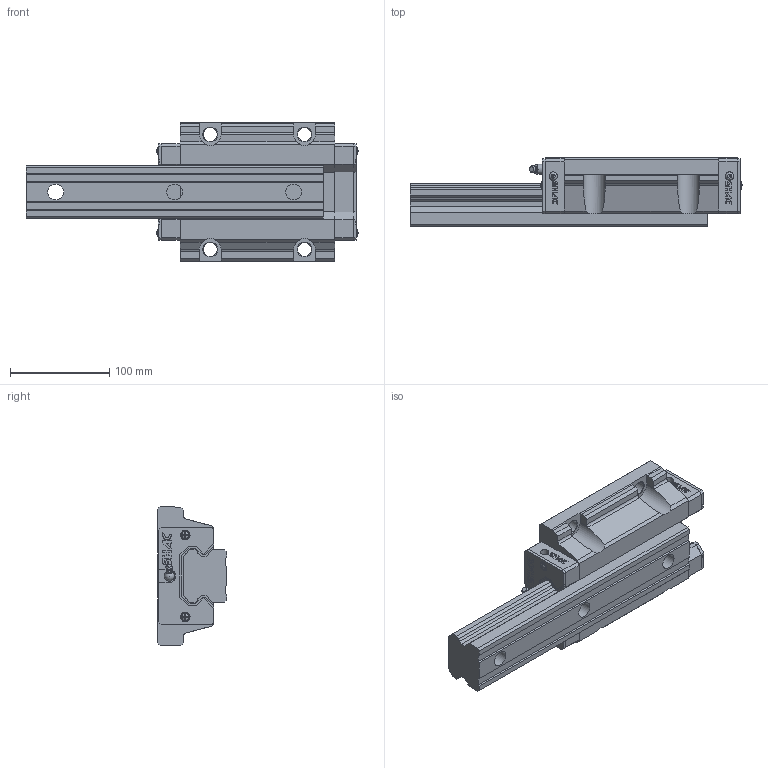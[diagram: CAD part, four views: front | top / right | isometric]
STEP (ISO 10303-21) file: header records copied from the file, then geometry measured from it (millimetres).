
FILE_DESCRIPTION( ( 'STEP AP214' ), '1' );
FILE_NAME( 'F:/品牌/SHAC 台湾鼎翰传动科技有限公司/3D滑块/GHW55HB1R300Z0C-30_30_1_1_.stp', '2025-04-21T22:48:39', ( 'License CC BY-ND 4.0' ), ( 'CADENAS' ), ' ', 'PARTsolutions', ' ' );
FILE_SCHEMA( ( 'AUTOMOTIVE_DESIGN { 1 0 10303 214 1 1 1 1 }' ) );
Length unit declared in the file: millimetre
Products named in the file (8): GHW55HB1R300Z0C-30/30(1_1); _GHR55R300C+RC-30/30(1)_RAIL; _GHW55HB_SLIDER; _GHW55HB_C; _GHW55HB_P; _GH55_SCREW; _GH55_BOLT; _GH55-_G
Assembly tree (12 placements, depth 2):
  GHW55HB1R300Z0C-30/30(1_1)
    _GHR55R300C+RC-30/30(1)_RAIL
    _GHW55HB_SLIDER
    _GHW55HB_C  x2
    _GHW55HB_P  x2
    _GH55_SCREW  x4
    _GH55_BOLT
    _GH55-_G
Bounding box: 334.86 x 70 x 140 mm (x, y, z)
Volume: 1588199.5 mm3; surface area: 205508 mm2
Topology: 12 solids, 12 shells, 826 faces, 2206 edges, 1455 vertices
Faces by surface type: plane 670, cylinder 115, cone 26, torus 9, sphere 5, bspline 1
Full cylindrical faces by diameter (mm): 1 x4, 4.5 x1, 4.7 x4, 7.35 x2, 7.76 x4, 8.4 x4, 9.7 x4, 10 x2, 10.3 x2, 14 x4, 16 x3, 23 x3
Entity records: 20295 total; most frequent: CARTESIAN_POINT 3004, ORIENTED_EDGE 2680, DIRECTION 2590, EDGE_CURVE 1340, LINE 1080, VECTOR 1080, VERTEX_POINT 909, AXIS2_PLACEMENT_3D 755
